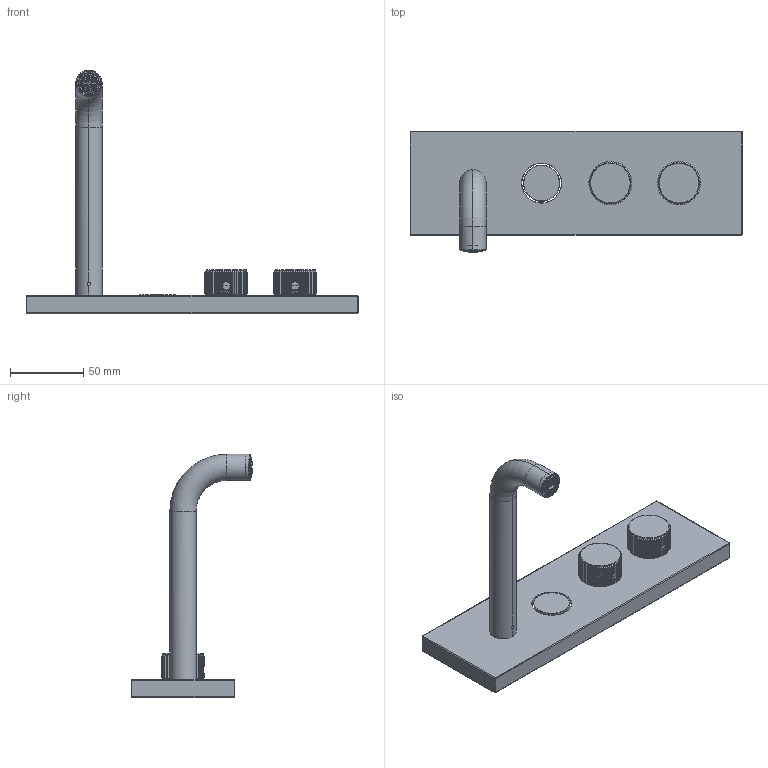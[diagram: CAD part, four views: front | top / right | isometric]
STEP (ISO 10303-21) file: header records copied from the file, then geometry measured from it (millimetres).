
FILE_DESCRIPTION((''),'2;1');
FILE_NAME('3DF_F5951X5','2022-03-25T08:37:08',('ivanv'),(''),'CREO PARAMETRIC BY PTC INC, 2021184','CREO PARAMETRIC BY PTC INC, 2021184','');
FILE_SCHEMA(('CONFIG_CONTROL_DESIGN'));
Products named in the file (1): 3DF_F5951X5
Bounding box: 227 x 83.36 x 166.55 mm (x, y, z)
Volume: 100176.1 mm3; surface area: 76528.3 mm2
Topology: 4 solids, 4 shells, 4084 faces, 11937 edges, 7934 vertices
Faces by surface type: plane 2353, cylinder 940, torus 429, bspline 181, extrusion 89, cone 64, sphere 28
Entity records: 173125 total; most frequent: CARTESIAN_POINT 72455, ORIENTED_EDGE 23854, DIRECTION 16964, EDGE_CURVE 11927, VERTEX_POINT 7934, AXIS2_PLACEMENT_3D 6119, B_SPLINE_CURVE_WITH_KNOTS 5074, VECTOR 4726
